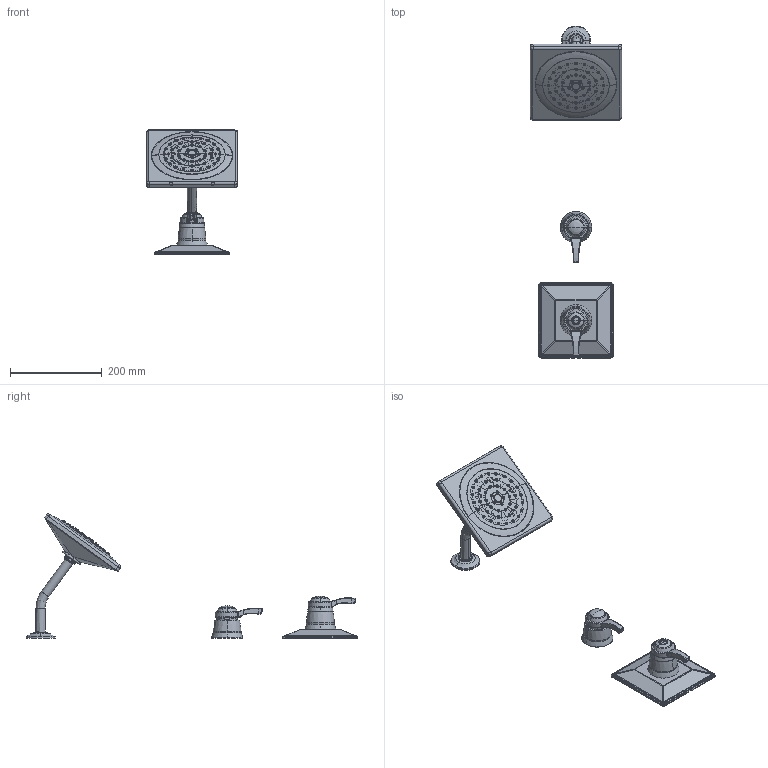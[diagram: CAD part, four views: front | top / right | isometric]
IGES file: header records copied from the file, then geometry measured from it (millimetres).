
Start section:  PTC IGES file: sku_ts3512.igs
Global section: file name: sku_ts3512.igs; native system: Pro/ENGINEER by Parametric Technology Corporation; preprocessor: 2006460; author: 9dutterb; organization: Unknown; date: 20071030.104410; units: inch
Bounding box: 199.27 x 723.3 x 270.64 mm (x, y, z)
Surface area: 355185.8 mm2 (no closed solid volume)
Topology: 0 solids, 0 shells, 695 faces, 3671 edges, 3667 vertices
Faces by surface type: revolution 463, bspline 226, extrusion 6
